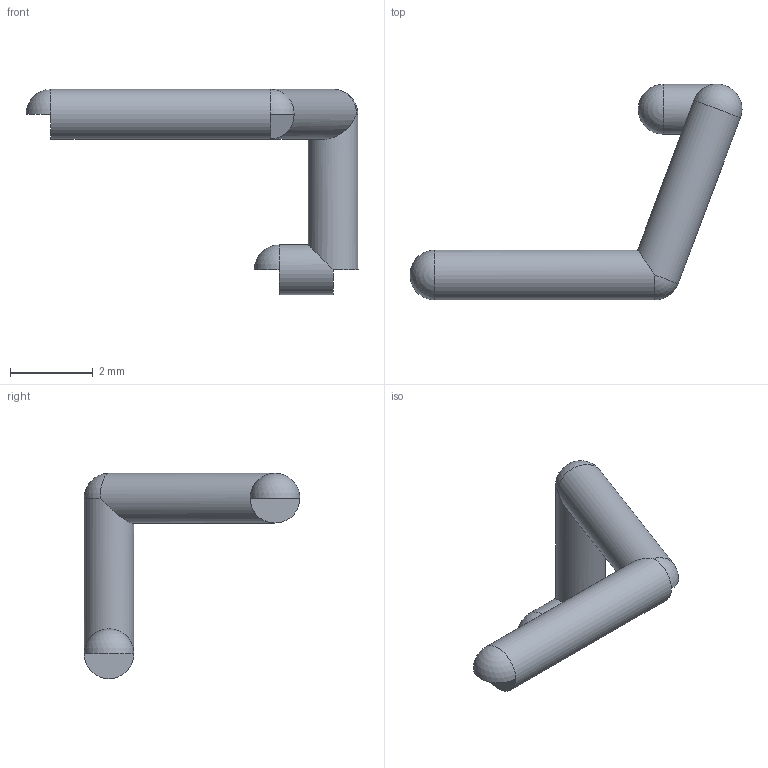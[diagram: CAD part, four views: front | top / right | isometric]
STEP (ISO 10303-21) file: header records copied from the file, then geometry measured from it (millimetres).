
FILE_DESCRIPTION(('Open CASCADE Model'),'2;1');
FILE_NAME('Open CASCADE Shape Model','2026-10-17T17:22:14',('Author'),( 'Open CASCADE'),'Open CASCADE STEP processor 7.9','Open CASCADE 7.9' ,'Unknown');
FILE_SCHEMA(('AUTOMOTIVE_DESIGN { 1 0 10303 214 1 1 1 1 }'));
Length unit declared in the file: millimetre
Products named in the file (1): Open CASCADE STEP translator 7.9 29
Bounding box: 8 x 5.2 x 4.95 mm (x, y, z)
Volume: 16.5 mm3; surface area: 59.3 mm2
Topology: 1 solids, 1 shells, 17 faces, 39 edges, 20 vertices
Faces by surface type: plane 9, cylinder 4, sphere 4
Full cylindrical faces by diameter (mm): 1.2 x4
Entity records: 954 total; most frequent: CARTESIAN_POINT 228, DIRECTION 141, ORIENTED_EDGE 70, PCURVE 70, DEFINITIONAL_REPRESENTATION 70, LINE 44, VECTOR 44, AXIS2_PLACEMENT_3D 43
